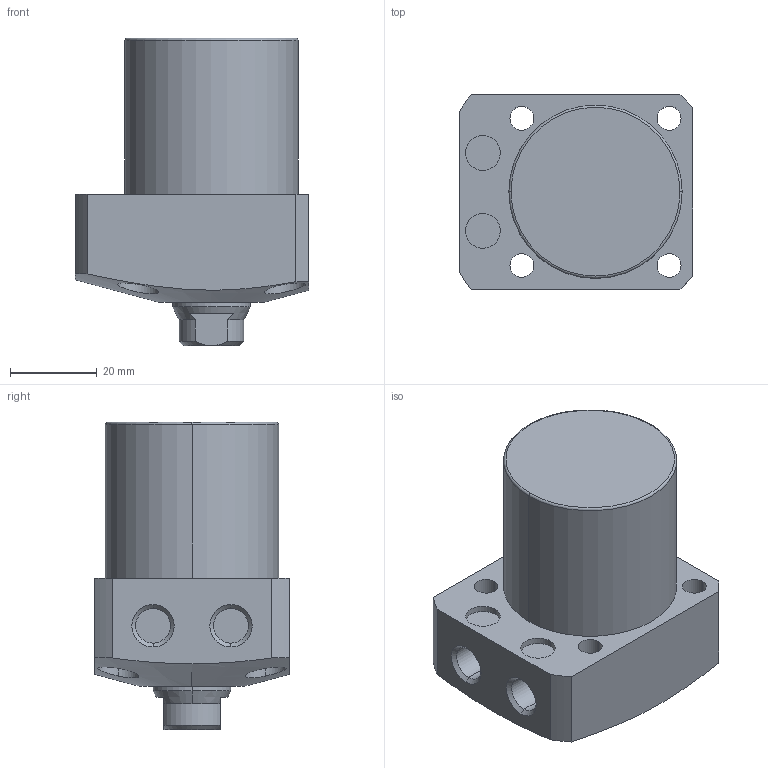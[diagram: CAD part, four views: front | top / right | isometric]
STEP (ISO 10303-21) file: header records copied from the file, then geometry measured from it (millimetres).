
FILE_DESCRIPTION (( 'STEP AP203' ), '1' );
FILE_NAME ('CLL-0400-CA-25.STEP', '2017-05-09T05:29:31', ( '' ), ( '' ), 'SwSTEP 2.0', 'SolidWorks 2015', '' );
FILE_SCHEMA (( 'CONFIG_CONTROL_DESIGN' ));
Length unit declared in the file: millimetre
Products named in the file (1): CLL-0400-CA-25
Bounding box: 54 x 45 x 71 mm (x, y, z)
Volume: 96685 mm3; surface area: 16423.2 mm2
Topology: 1 solids, 1 shells, 74 faces, 170 edges, 107 vertices
Faces by surface type: cylinder 35, plane 22, cone 15, torus 2
Entity records: 2512 total; most frequent: CARTESIAN_POINT 725, DIRECTION 374, ORIENTED_EDGE 336, EDGE_CURVE 168, AXIS2_PLACEMENT_3D 155, VERTEX_POINT 107, EDGE_LOOP 93, CIRCLE 80
